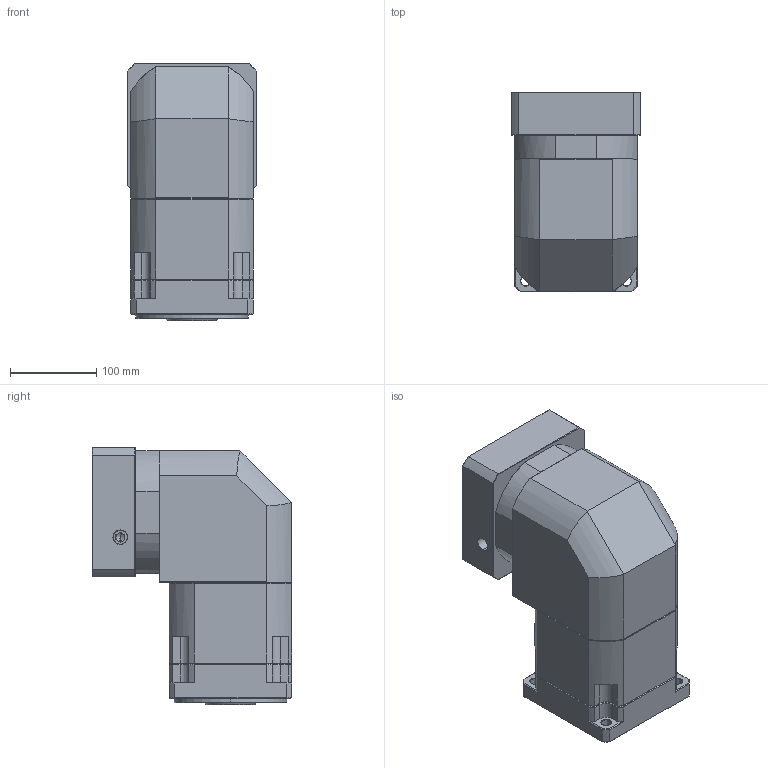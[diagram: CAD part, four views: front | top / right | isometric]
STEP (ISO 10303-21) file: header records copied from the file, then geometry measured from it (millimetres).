
FILE_DESCRIPTION (( 'STEP AP214' ), '1' );
FILE_NAME ('ZBR142A-K35-L2-P2-28-130-165-M10.step', '2023-09-02T07:16:16', ( '' ), ( '' ), 'SwSTEP 2.0', 'SolidWorks 2016', '' );
FILE_SCHEMA (( 'AUTOMOTIVE_DESIGN' ));
Length unit declared in the file: millimetre
Products named in the file (1): ZBR142A-K35-L2-P2-28-130-165-M10
Bounding box: 150 x 231 x 297.7 mm (x, y, z)
Volume: 6104915.1 mm3; surface area: 414376.1 mm2
Topology: 6 solids, 6 shells, 2254 faces, 5956 edges, 3808 vertices
Faces by surface type: plane 1113, bspline 408, cylinder 387, cone 326, torus 20
Entity records: 124200 total; most frequent: CARTESIAN_POINT 46809, ORIENTED_EDGE 11856, DIRECTION 9376, EDGE_CURVE 5928, LINE 3844, VECTOR 3844, VERTEX_POINT 3808, AXIS2_PLACEMENT_3D 2766
